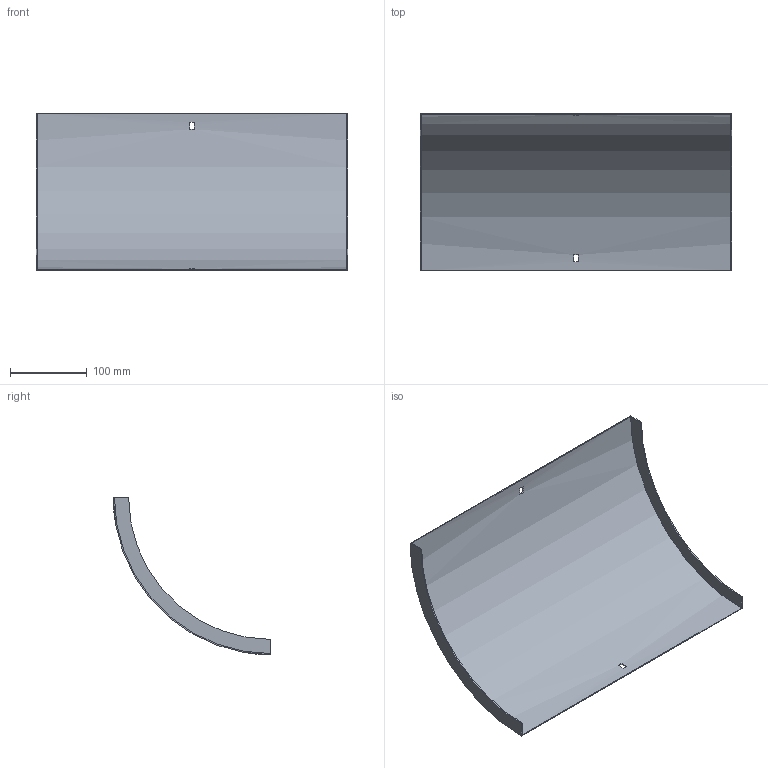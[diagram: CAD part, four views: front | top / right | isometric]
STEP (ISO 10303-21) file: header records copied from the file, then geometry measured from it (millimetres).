
FILE_DESCRIPTION (( 'STEP AP214' ), '1' );
FILE_NAME ('33N1D400.step', '2025-02-21T09:17:11', ( '' ), ( '' ), 'SwSTEP 2.0', 'SolidWorks 2023', '' );
FILE_SCHEMA (( 'AUTOMOTIVE_DESIGN' ));
Length unit declared in the file: millimetre
Products named in the file (1): 33N1D400
Bounding box: 407 x 205.5 x 205.5 mm (x, y, z)
Volume: 213151.4 mm3; surface area: 286504.9 mm2
Topology: 1 solids, 1 shells, 18 faces, 48 edges, 32 vertices
Faces by surface type: plane 14, cylinder 4
Entity records: 599 total; most frequent: DIRECTION 102, CARTESIAN_POINT 99, ORIENTED_EDGE 96, EDGE_CURVE 48, AXIS2_PLACEMENT_3D 35, VECTOR 32, VERTEX_POINT 32, LINE 32
